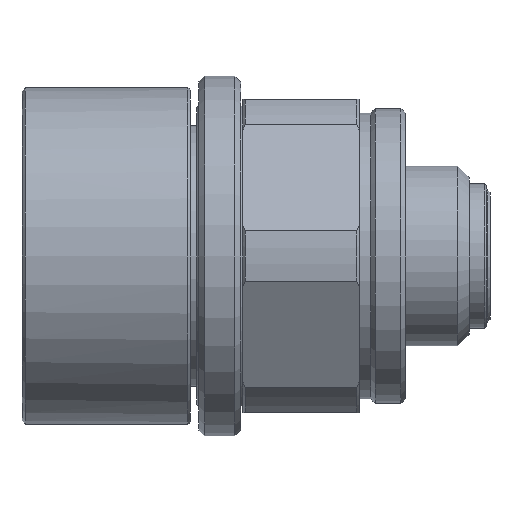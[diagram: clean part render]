
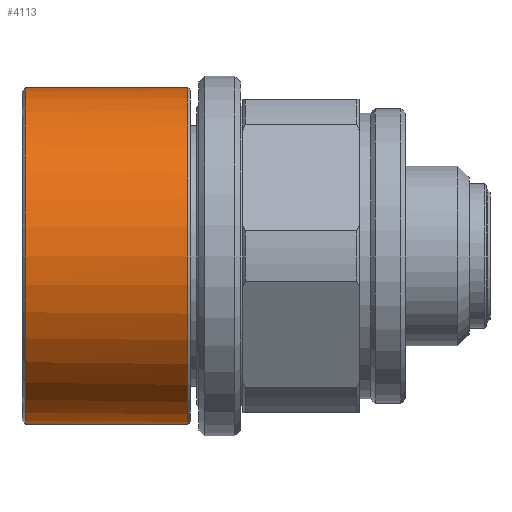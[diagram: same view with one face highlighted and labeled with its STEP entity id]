
A CAD part, front view. The second image highlights one B-rep face of the part: STEP entity #4113.
In plain terms, the highlighted cylindrical face has radius 14.5 mm (diameter 29 mm), a partial arc.
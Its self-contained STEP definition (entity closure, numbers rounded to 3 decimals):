
#23 = CIRCLE ( 'NONE', #828, 14.5 ) ;
#85 = DIRECTION ( 'NONE',  ( 1., 0., 0. ) ) ;
#256 = LINE ( 'NONE', #3985, #2859 ) ;
#342 = ORIENTED_EDGE ( 'NONE', *, *, #1255, .T. ) ;
#370 = EDGE_CURVE ( 'NONE', #3546, #3274, #256, .T. ) ;
#427 = VECTOR ( 'NONE', #1810, 1000. ) ;
#474 = DIRECTION ( 'NONE',  ( 1., 0., 0. ) ) ;
#524 = VERTEX_POINT ( 'NONE', #3411 ) ;
#565 = EDGE_LOOP ( 'NONE', ( #3893, #2833, #342, #4080, #592, #1355, #3076, #3898 ) ) ;
#592 = ORIENTED_EDGE ( 'NONE', *, *, #875, .T. ) ;
#673 = DIRECTION ( 'NONE',  ( 1., 0., 0. ) ) ;
#706 = CARTESIAN_POINT ( 'NONE',  ( -45.541, 0., 0. ) ) ;
#755 = CARTESIAN_POINT ( 'NONE',  ( -45.541, -0.5, -14.491 ) ) ;
#828 = AXIS2_PLACEMENT_3D ( 'NONE', #2695, #673, #3028 ) ;
#857 = LINE ( 'NONE', #1481, #3423 ) ;
#875 = EDGE_CURVE ( 'NONE', #1453, #3739, #3987, .T. ) ;
#1025 = EDGE_CURVE ( 'NONE', #3739, #3546, #1697, .T. ) ;
#1047 = DIRECTION ( 'NONE',  ( 0., 0., 1. ) ) ;
#1178 = VERTEX_POINT ( 'NONE', #4086 ) ;
#1188 = EDGE_CURVE ( 'NONE', #1696, #1453, #2867, .T. ) ;
#1255 = EDGE_CURVE ( 'NONE', #1178, #1696, #857, .T. ) ;
#1355 = ORIENTED_EDGE ( 'NONE', *, *, #1025, .T. ) ;
#1443 = CARTESIAN_POINT ( 'NONE',  ( -46.241, 0., 0. ) ) ;
#1453 = VERTEX_POINT ( 'NONE', #4185 ) ;
#1479 = CARTESIAN_POINT ( 'NONE',  ( -46.241, -0.5, 14.491 ) ) ;
#1481 = CARTESIAN_POINT ( 'NONE',  ( -0.041, -0.5, 14.491 ) ) ;
#1529 = VECTOR ( 'NONE', #474, 1000. ) ;
#1580 = CYLINDRICAL_SURFACE ( 'NONE', #2207, 14.5 ) ;
#1594 = DIRECTION ( 'NONE',  ( 1., 0., 0. ) ) ;
#1696 = VERTEX_POINT ( 'NONE', #1479 ) ;
#1697 = CIRCLE ( 'NONE', #3964, 14.5 ) ;
#1785 = DIRECTION ( 'NONE',  ( 0., 0., -1. ) ) ;
#1810 = DIRECTION ( 'NONE',  ( 1., 0., 0. ) ) ;
#1829 = DIRECTION ( 'NONE',  ( -1., 0., 0. ) ) ;
#1999 = DIRECTION ( 'NONE',  ( 1., 0., 0. ) ) ;
#2207 = AXIS2_PLACEMENT_3D ( 'NONE', #2779, #85, #3763 ) ;
#2250 = CIRCLE ( 'NONE', #4337, 14.5 ) ;
#2298 = LINE ( 'NONE', #2838, #1529 ) ;
#2474 = VERTEX_POINT ( 'NONE', #3281 ) ;
#2566 = AXIS2_PLACEMENT_3D ( 'NONE', #1443, #3783, #1785 ) ;
#2695 = CARTESIAN_POINT ( 'NONE',  ( -32.241, 0., 0. ) ) ;
#2779 = CARTESIAN_POINT ( 'NONE',  ( -0.041, 0., 0. ) ) ;
#2808 = CARTESIAN_POINT ( 'NONE',  ( -0.041, -0.5, -14.491 ) ) ;
#2833 = ORIENTED_EDGE ( 'NONE', *, *, #3003, .T. ) ;
#2838 = CARTESIAN_POINT ( 'NONE',  ( -0.041, 0., 14.5 ) ) ;
#2859 = VECTOR ( 'NONE', #1999, 1000. ) ;
#2867 = CIRCLE ( 'NONE', #2566, 14.5 ) ;
#3003 = EDGE_CURVE ( 'NONE', #524, #1178, #2250, .T. ) ;
#3028 = DIRECTION ( 'NONE',  ( 0., 0., -1. ) ) ;
#3063 = DIRECTION ( 'NONE',  ( 1., 0., 0. ) ) ;
#3076 = ORIENTED_EDGE ( 'NONE', *, *, #370, .T. ) ;
#3092 = CARTESIAN_POINT ( 'NONE',  ( -32.241, 0., -14.5 ) ) ;
#3188 = EDGE_CURVE ( 'NONE', #524, #2474, #2298, .T. ) ;
#3274 = VERTEX_POINT ( 'NONE', #3092 ) ;
#3281 = CARTESIAN_POINT ( 'NONE',  ( -32.241, 0., 14.5 ) ) ;
#3411 = CARTESIAN_POINT ( 'NONE',  ( -45.541, 0., 14.5 ) ) ;
#3423 = VECTOR ( 'NONE', #1829, 1000. ) ;
#3472 = FACE_OUTER_BOUND ( 'NONE', #565, .T. ) ;
#3546 = VERTEX_POINT ( 'NONE', #3907 ) ;
#3602 = CARTESIAN_POINT ( 'NONE',  ( -45.541, 0., 0. ) ) ;
#3609 = EDGE_CURVE ( 'NONE', #2474, #3274, #23, .T. ) ;
#3739 = VERTEX_POINT ( 'NONE', #755 ) ;
#3763 = DIRECTION ( 'NONE',  ( 0., 0., -1. ) ) ;
#3783 = DIRECTION ( 'NONE',  ( 1., 0., 0. ) ) ;
#3893 = ORIENTED_EDGE ( 'NONE', *, *, #3188, .F. ) ;
#3898 = ORIENTED_EDGE ( 'NONE', *, *, #3609, .F. ) ;
#3907 = CARTESIAN_POINT ( 'NONE',  ( -45.541, 0., -14.5 ) ) ;
#3923 = DIRECTION ( 'NONE',  ( 0., 0., 1. ) ) ;
#3964 = AXIS2_PLACEMENT_3D ( 'NONE', #3602, #1594, #3923 ) ;
#3985 = CARTESIAN_POINT ( 'NONE',  ( -0.041, 0., -14.5 ) ) ;
#3987 = LINE ( 'NONE', #2808, #427 ) ;
#4080 = ORIENTED_EDGE ( 'NONE', *, *, #1188, .T. ) ;
#4086 = CARTESIAN_POINT ( 'NONE',  ( -45.541, -0.5, 14.491 ) ) ;
#4113 = ADVANCED_FACE ( 'NONE', ( #3472 ), #1580, .T. ) ;
#4185 = CARTESIAN_POINT ( 'NONE',  ( -46.241, -0.5, -14.491 ) ) ;
#4337 = AXIS2_PLACEMENT_3D ( 'NONE', #706, #3063, #1047 ) ;
